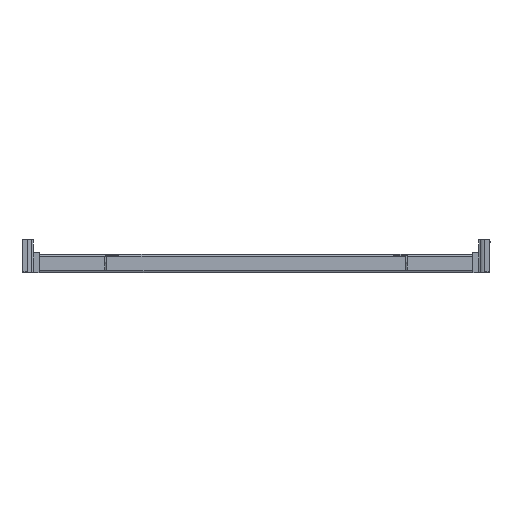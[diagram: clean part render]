
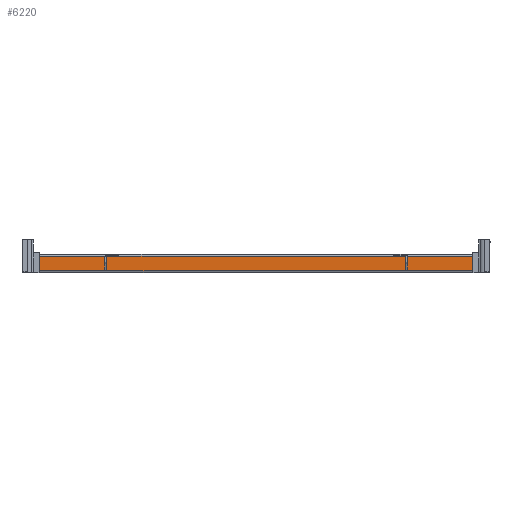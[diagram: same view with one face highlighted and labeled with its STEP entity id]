
A CAD part, left-side view. The second image highlights one B-rep face of the part: STEP entity #6220.
In plain terms, the highlighted planar face has unit normal (-1, 0, 0).
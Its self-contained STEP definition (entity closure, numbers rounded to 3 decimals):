
#110 = DIRECTION ( 'NONE',  ( 0., -1., 0. ) ) ;
#180 = VERTEX_POINT ( 'NONE', #11865 ) ;
#363 = VECTOR ( 'NONE', #4792, 1000. ) ;
#651 = CARTESIAN_POINT ( 'NONE',  ( 11.75, 5624.45, 1584.55 ) ) ;
#664 = AXIS2_PLACEMENT_3D ( 'NONE', #16562, #824, #13854 ) ;
#772 = DIRECTION ( 'NONE',  ( 0., -1., 0. ) ) ;
#824 = DIRECTION ( 'NONE',  ( -1., 0., 0. ) ) ;
#1123 = VECTOR ( 'NONE', #14334, 1000. ) ;
#1244 = CARTESIAN_POINT ( 'NONE',  ( 11.75, 5019.95, 1599.3 ) ) ;
#1339 = DIRECTION ( 'NONE',  ( 0., 0., -1. ) ) ;
#1616 = EDGE_CURVE ( 'NONE', #14860, #15434, #1968, .T. ) ;
#1738 = VECTOR ( 'NONE', #16475, 1000. ) ;
#1785 = CARTESIAN_POINT ( 'NONE',  ( 11.75, 5635.45, 1596.8 ) ) ;
#1894 = EDGE_CURVE ( 'NONE', #15434, #3243, #2794, .T. ) ;
#1958 = CARTESIAN_POINT ( 'NONE',  ( 11.75, 5624.45, 1576.8 ) ) ;
#1968 = LINE ( 'NONE', #4986, #363 ) ;
#2070 = LINE ( 'NONE', #651, #1738 ) ;
#2152 = ORIENTED_EDGE ( 'NONE', *, *, #9966, .T. ) ;
#2546 = CARTESIAN_POINT ( 'NONE',  ( 11.75, 5635.45, 1599.3 ) ) ;
#2641 = VERTEX_POINT ( 'NONE', #17468 ) ;
#2715 = ORIENTED_EDGE ( 'NONE', *, *, #6144, .F. ) ;
#2794 = LINE ( 'NONE', #7306, #15311 ) ;
#2810 = ORIENTED_EDGE ( 'NONE', *, *, #18099, .T. ) ;
#3243 = VERTEX_POINT ( 'NONE', #7657 ) ;
#3252 = CARTESIAN_POINT ( 'NONE',  ( 11.75, 5635.45, 1580.8 ) ) ;
#3276 = VERTEX_POINT ( 'NONE', #17861 ) ;
#3347 = ORIENTED_EDGE ( 'NONE', *, *, #17469, .T. ) ;
#3572 = EDGE_CURVE ( 'NONE', #15184, #3276, #17321, .T. ) ;
#3731 = CARTESIAN_POINT ( 'NONE',  ( 11.75, 5018.95, 1599.3 ) ) ;
#3796 = LINE ( 'NONE', #9385, #11679 ) ;
#4081 = CARTESIAN_POINT ( 'NONE',  ( 11.75, 5029.95, 1576.8 ) ) ;
#4273 = ORIENTED_EDGE ( 'NONE', *, *, #3572, .T. ) ;
#4412 = CARTESIAN_POINT ( 'NONE',  ( 11.75, 6289.2, 1579.8 ) ) ;
#4527 = CIRCLE ( 'NONE', #14998, 1. ) ;
#4792 = DIRECTION ( 'NONE',  ( 0., -1., 0. ) ) ;
#4824 = EDGE_CURVE ( 'NONE', #3276, #14860, #2070, .T. ) ;
#4852 = DIRECTION ( 'NONE',  ( 0., 0., -1. ) ) ;
#4986 = CARTESIAN_POINT ( 'NONE',  ( 11.75, 5635.45, 1576.8 ) ) ;
#5623 = VERTEX_POINT ( 'NONE', #17136 ) ;
#5892 = DIRECTION ( 'NONE',  ( 0., 0., 1. ) ) ;
#6095 = CARTESIAN_POINT ( 'NONE',  ( 11.75, 5018.95, 1596.8 ) ) ;
#6144 = EDGE_CURVE ( 'NONE', #9341, #180, #16531, .T. ) ;
#6202 = AXIS2_PLACEMENT_3D ( 'NONE', #1244, #15683, #110 ) ;
#6220 = ADVANCED_FACE ( 'NONE', ( #8632 ), #15588, .T. ) ;
#6961 = AXIS2_PLACEMENT_3D ( 'NONE', #7239, #14611, #16106 ) ;
#7050 = LINE ( 'NONE', #4412, #1123 ) ;
#7068 = DIRECTION ( 'NONE',  ( 1., 0., 0. ) ) ;
#7150 = CARTESIAN_POINT ( 'NONE',  ( 11.75, 5019.95, 1579.8 ) ) ;
#7239 = CARTESIAN_POINT ( 'NONE',  ( 11.75, 5028.95, 1578.8 ) ) ;
#7240 = LINE ( 'NONE', #12734, #17274 ) ;
#7306 = CARTESIAN_POINT ( 'NONE',  ( 11.75, 5029.95, 1584.55 ) ) ;
#7552 = CIRCLE ( 'NONE', #6961, 1. ) ;
#7657 = CARTESIAN_POINT ( 'NONE',  ( 11.75, 5029.95, 1578.8 ) ) ;
#8198 = ORIENTED_EDGE ( 'NONE', *, *, #4824, .T. ) ;
#8341 = LINE ( 'NONE', #2546, #10543 ) ;
#8517 = DIRECTION ( 'NONE',  ( 0., -1., 0. ) ) ;
#8632 = FACE_OUTER_BOUND ( 'NONE', #15547, .T. ) ;
#9330 = CIRCLE ( 'NONE', #664, 1. ) ;
#9341 = VERTEX_POINT ( 'NONE', #6095 ) ;
#9385 = CARTESIAN_POINT ( 'NONE',  ( 11.75, 5635.45, 1596.8 ) ) ;
#9966 = EDGE_CURVE ( 'NONE', #2641, #15184, #7050, .T. ) ;
#9985 = EDGE_CURVE ( 'NONE', #5623, #13356, #7240, .T. ) ;
#10543 = VECTOR ( 'NONE', #14052, 1000. ) ;
#10854 = ORIENTED_EDGE ( 'NONE', *, *, #15755, .F. ) ;
#11196 = CARTESIAN_POINT ( 'NONE',  ( 11.75, 5625.45, 1579.8 ) ) ;
#11679 = VECTOR ( 'NONE', #772, 1000. ) ;
#11750 = ORIENTED_EDGE ( 'NONE', *, *, #1616, .T. ) ;
#11865 = CARTESIAN_POINT ( 'NONE',  ( 11.75, 5018.95, 1580.8 ) ) ;
#12523 = AXIS2_PLACEMENT_3D ( 'NONE', #12749, #7068, #13742 ) ;
#12734 = CARTESIAN_POINT ( 'NONE',  ( 11.75, 4365.2, 1579.8 ) ) ;
#12749 = CARTESIAN_POINT ( 'NONE',  ( 11.75, 5625.45, 1578.8 ) ) ;
#12838 = VERTEX_POINT ( 'NONE', #1785 ) ;
#13356 = VERTEX_POINT ( 'NONE', #7150 ) ;
#13448 = CARTESIAN_POINT ( 'NONE',  ( 11.75, 5634.45, 1580.8 ) ) ;
#13742 = DIRECTION ( 'NONE',  ( 0., 0., -1. ) ) ;
#13768 = EDGE_CURVE ( 'NONE', #12838, #15239, #8341, .T. ) ;
#13854 = DIRECTION ( 'NONE',  ( 0., 0., -1. ) ) ;
#14019 = EDGE_CURVE ( 'NONE', #13356, #180, #9330, .T. ) ;
#14052 = DIRECTION ( 'NONE',  ( 0., 0., -1. ) ) ;
#14334 = DIRECTION ( 'NONE',  ( 0., -1., 0. ) ) ;
#14611 = DIRECTION ( 'NONE',  ( 1., 0., 0. ) ) ;
#14804 = ORIENTED_EDGE ( 'NONE', *, *, #1894, .T. ) ;
#14850 = DIRECTION ( 'NONE',  ( -1., 0., 0. ) ) ;
#14860 = VERTEX_POINT ( 'NONE', #1958 ) ;
#14998 = AXIS2_PLACEMENT_3D ( 'NONE', #13448, #14850, #4852 ) ;
#15184 = VERTEX_POINT ( 'NONE', #11196 ) ;
#15239 = VERTEX_POINT ( 'NONE', #3252 ) ;
#15311 = VECTOR ( 'NONE', #5892, 1000. ) ;
#15434 = VERTEX_POINT ( 'NONE', #4081 ) ;
#15547 = EDGE_LOOP ( 'NONE', ( #18074, #3347, #2152, #4273, #8198, #11750, #14804, #2810, #18063, #16823, #2715, #10854 ) ) ;
#15588 = PLANE ( 'NONE',  #6202 ) ;
#15683 = DIRECTION ( 'NONE',  ( -1., 0., 0. ) ) ;
#15755 = EDGE_CURVE ( 'NONE', #12838, #9341, #3796, .T. ) ;
#16106 = DIRECTION ( 'NONE',  ( 0., 0., -1. ) ) ;
#16475 = DIRECTION ( 'NONE',  ( 0., 0., -1. ) ) ;
#16531 = LINE ( 'NONE', #3731, #16923 ) ;
#16562 = CARTESIAN_POINT ( 'NONE',  ( 11.75, 5019.95, 1580.8 ) ) ;
#16823 = ORIENTED_EDGE ( 'NONE', *, *, #14019, .T. ) ;
#16923 = VECTOR ( 'NONE', #1339, 1000. ) ;
#17136 = CARTESIAN_POINT ( 'NONE',  ( 11.75, 5028.95, 1579.8 ) ) ;
#17274 = VECTOR ( 'NONE', #8517, 1000. ) ;
#17321 = CIRCLE ( 'NONE', #12523, 1. ) ;
#17468 = CARTESIAN_POINT ( 'NONE',  ( 11.75, 5634.45, 1579.8 ) ) ;
#17469 = EDGE_CURVE ( 'NONE', #15239, #2641, #4527, .T. ) ;
#17861 = CARTESIAN_POINT ( 'NONE',  ( 11.75, 5624.45, 1578.8 ) ) ;
#18063 = ORIENTED_EDGE ( 'NONE', *, *, #9985, .T. ) ;
#18074 = ORIENTED_EDGE ( 'NONE', *, *, #13768, .T. ) ;
#18099 = EDGE_CURVE ( 'NONE', #3243, #5623, #7552, .T. ) ;
